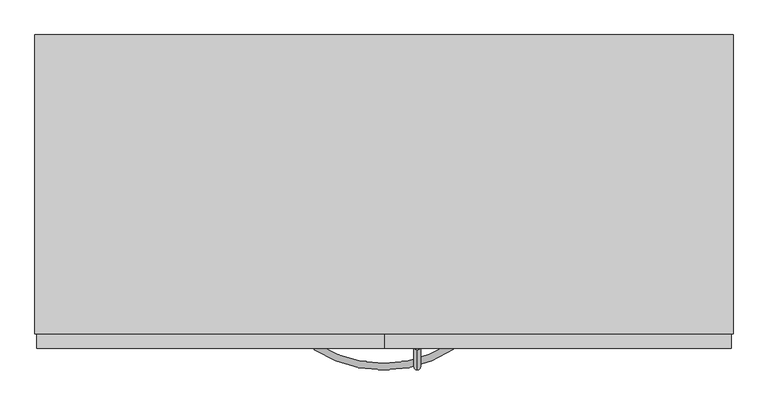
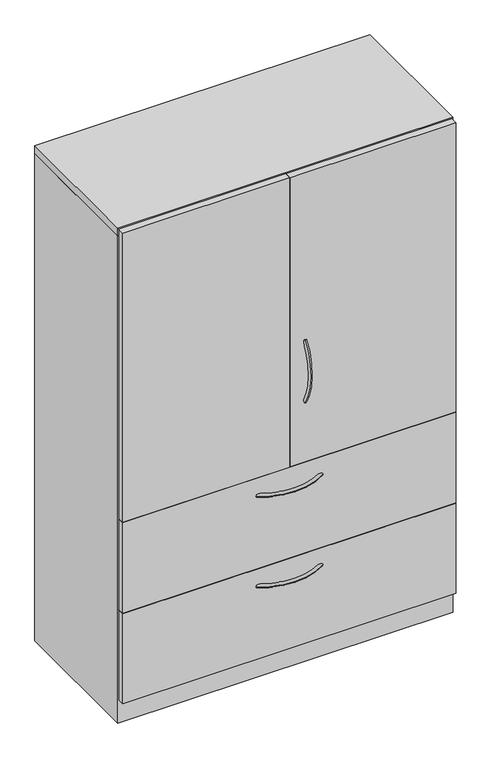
"""IFC4 building model written with IfcOpenShell, lengths in millimetres: furniture geometry, Steelcase - Universal Storage - Cabinet - Combination - Proud Steel : 65 1/2H - Hinged Doors/2 Drawers - 18 7/8D x 42W."""

from ifc_helpers import new_model, si_unit, point, frame, origin, place, context, project, spatial, polyline, circle_curve, ellipse_curve, trimmed, outline, extrude, faceted_brep, source, transform, mapped, element, save
from ifc_brep_helpers import plane_surface, revolved_surface, advanced_brep


def furniture_df54faf2(model_context):
    return source(origin(), model_context, "Body", "SolidModel", [
        extrude(outline(polyline([(1063.6225413, -479.552), (3.1725353, -479.552), (3.1725353, -457.3261219), (1063.6225413, -457.3261219), (1063.6225413, -479.552)])), frame((0.0, 0.0, 77.724), z_axis=(0.0, 0.0, 1.0), x_axis=(1.0, 0.0, 0.0)), (0.0, 0.0, 1.0), 303.276),
        extrude(outline(polyline([(1063.6225413, -479.552), (3.1725353, -479.552), (3.1725353, -457.3261219), (1063.6225413, -457.3261219), (1063.6225413, -479.552)])), frame((0.0, 0.0, 382.524), z_axis=(0.0, 0.0, 1.0), x_axis=(1.0, 0.0, 0.0)), (0.0, 0.0, 1.0), 303.276),
        extrude(outline(polyline([(533.4, -479.552), (3.1725353, -479.552), (3.1725353, -457.3261219), (533.4, -457.3261219), (533.4, -479.552)])), frame((0.0, 0.0, 687.7062596), z_axis=(0.0, 0.0, 1.0), x_axis=(1.0, 0.0, 0.0)), (0.0, 0.0, 1.0), 972.82),
        extrude(outline(polyline([(1063.6225413, -479.552), (534.9239992, -479.552), (534.9239992, -457.3261219), (1063.6225413, -457.3261219), (1063.6225413, -479.552)])), frame((0.0, 0.0, 687.7062596), z_axis=(0.0, 0.0, 1.0), x_axis=(1.0, 0.0, 0.0)), (0.0, 0.0, 1.0), 972.82),
        advanced_brep(
        [(584.1682496, -481.5705994, 1099.843666), (584.1682496, -473.0108019, 1094.3705073), (584.1682496, -481.1337636, 887.5367456), (584.1682496, -472.5965612, 893.0450825)],
        [
            (0, 1, circle_curve(frame((584.1682496, -477.2907007, 1097.1070866), z_axis=(0.0, 0.5386967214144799, 0.842499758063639), x_axis=(0.0, 0.842499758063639, -0.5386967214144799)), 5.08)),
            (1, 0, circle_curve(frame((584.1682496, -477.2907007, 1097.1070866), z_axis=(0.0, 0.5386967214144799, 0.842499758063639), x_axis=(0.0, 0.842499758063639, -0.5386967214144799)), 5.08)),
            (2, 3, circle_curve(frame((584.1682496, -476.8651624, 890.2909141), z_axis=(0.0, 0.5421591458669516, -0.8402758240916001), x_axis=(0.0, 0.8402758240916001, 0.5421591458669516)), 5.08)),
            (3, 2, circle_curve(frame((584.1682496, -476.8651624, 890.2909141), z_axis=(0.0, 0.5421591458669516, -0.8402758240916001), x_axis=(0.0, 0.8402758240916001, 0.5421591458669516)), 5.08)),
            (3, 1, circle_curve(frame((584.1682496, -316.0827352, 994.0302589), z_axis=(-1.0, 0.0, 0.0), x_axis=(0.0, -0.8424997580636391, 0.5386967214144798)), 186.2648211)),
            (0, 2, circle_curve(frame((584.1682496, -316.0827352, 994.0302589), z_axis=(1.0, 0.0, 0.0), x_axis=(0.0, -0.8424997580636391, 0.5386967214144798)), 196.4248211)),
        ],
        [
            plane_surface(frame((584.9619996, -476.6365286, 1096.6888072), z_axis=(0.0, 0.5386967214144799, 0.8424997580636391), x_axis=(1.0, 0.0, 0.0))),
            plane_surface(frame((584.9619996, -476.2127171, 890.711882), z_axis=(0.0, 0.5421591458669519, -0.8402758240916), x_axis=(1.0, 0.0, 0.0))),
            revolved_surface(trimmed(ellipse_curve(frame((584.1682496, -477.2907007, 1097.1070866), z_axis=(0.0, 0.5386967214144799, 0.842499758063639), x_axis=(0.0, 0.842499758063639, -0.5386967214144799)), 5.08, 5.08), [point((584.1682496, -481.5705994, 1099.843666))], [point((584.1682496, -473.0108019, 1094.3705073))], True, "CARTESIAN"), (584.9619996, -316.0827352, 994.0302589), (1.0, 0.0, 0.0)),
            revolved_surface(trimmed(ellipse_curve(frame((584.1682496, -477.2907007, 1097.1070866), z_axis=(0.0, 0.5386967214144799, 0.842499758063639), x_axis=(0.0, 0.842499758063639, -0.5386967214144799)), 5.08, 5.08), [point((584.1682496, -473.0108019, 1094.3705073))], [point((584.1682496, -481.5705994, 1099.843666))], True, "CARTESIAN"), (584.9619996, -316.0827352, 994.0302589), (1.0, 0.0, 0.0)),
        ],
        [
            (0, [[1, 2]]),
            (1, [[3, 4]]),
            (2, [[5, -1, 6, -4]]),
            (3, [[-6, -2, -5, -3]]),
        ],
    ),
        advanced_brep(
        [(426.8245932, -481.5705994, 323.56425), (432.2977519, -473.0108019, 323.56425), (639.1315136, -481.1337636, 323.56425), (633.6231767, -472.5965612, 323.56425)],
        [
            (0, 1, circle_curve(frame((429.5611726, -477.2907007, 323.56425), z_axis=(-0.8424997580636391, 0.5386967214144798, 0.0), x_axis=(0.5386967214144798, 0.8424997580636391, 0.0)), 5.08)),
            (1, 0, circle_curve(frame((429.5611726, -477.2907007, 323.56425), z_axis=(-0.8424997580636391, 0.5386967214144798, 0.0), x_axis=(0.5386967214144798, 0.8424997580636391, 0.0)), 5.08)),
            (2, 3, circle_curve(frame((636.3773452, -476.8651624, 323.56425), z_axis=(0.8402758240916, 0.5421591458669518, 0.0), x_axis=(-0.5421591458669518, 0.8402758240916, 0.0)), 5.08)),
            (3, 2, circle_curve(frame((636.3773452, -476.8651624, 323.56425), z_axis=(0.8402758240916, 0.5421591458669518, 0.0), x_axis=(-0.5421591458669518, 0.8402758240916, 0.0)), 5.08)),
            (3, 1, circle_curve(frame((532.6380004, -316.0827352, 323.56425), z_axis=(0.0, 0.0, -1.0), x_axis=(-0.5386967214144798, -0.8424997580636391, 0.0)), 186.2648211)),
            (0, 2, circle_curve(frame((532.6380004, -316.0827352, 323.56425), z_axis=(0.0, 0.0, 1.0), x_axis=(-0.5386967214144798, -0.8424997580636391, 0.0)), 196.4248211)),
        ],
        [
            plane_surface(frame((429.9794521, -476.6365286, 324.358), z_axis=(-0.8424997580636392, 0.5386967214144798, 0.0), x_axis=(0.0, 0.0, 1.0))),
            plane_surface(frame((635.9563772, -476.2127171, 324.358), z_axis=(0.8402758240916, 0.5421591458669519, 0.0), x_axis=(0.0, 0.0, 1.0))),
            revolved_surface(trimmed(ellipse_curve(frame((429.5611726, -477.2907007, 323.56425), z_axis=(-0.8424997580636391, 0.5386967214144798, 0.0), x_axis=(0.5386967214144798, 0.8424997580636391, 0.0)), 5.08, 5.08), [point((426.8245932, -481.5705994, 323.56425))], [point((432.2977519, -473.0108019, 323.56425))], True, "CARTESIAN"), (532.6380004, -316.0827352, 324.358), (0.0, 0.0, 1.0)),
            revolved_surface(trimmed(ellipse_curve(frame((429.5611726, -477.2907007, 323.56425), z_axis=(-0.8424997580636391, 0.5386967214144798, 0.0), x_axis=(0.5386967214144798, 0.8424997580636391, 0.0)), 5.08, 5.08), [point((432.2977519, -473.0108019, 323.56425))], [point((426.8245932, -481.5705994, 323.56425))], True, "CARTESIAN"), (532.6380004, -316.0827352, 324.358), (0.0, 0.0, 1.0)),
        ],
        [
            (0, [[1, 2]]),
            (1, [[3, 4]]),
            (2, [[5, -1, 6, -4]]),
            (3, [[-6, -2, -5, -3]]),
        ],
    ),
        advanced_brep(
        [(426.8245932, -481.5705994, 627.85625), (432.2977519, -473.0108019, 627.85625), (639.1315136, -481.1337636, 627.85625), (633.6231767, -472.5965612, 627.85625)],
        [
            (0, 1, circle_curve(frame((429.5611726, -477.2907007, 627.85625), z_axis=(-0.8424997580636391, 0.5386967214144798, 0.0), x_axis=(0.5386967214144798, 0.8424997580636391, 0.0)), 5.08)),
            (1, 0, circle_curve(frame((429.5611726, -477.2907007, 627.85625), z_axis=(-0.8424997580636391, 0.5386967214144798, 0.0), x_axis=(0.5386967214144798, 0.8424997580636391, 0.0)), 5.08)),
            (2, 3, circle_curve(frame((636.3773452, -476.8651624, 627.85625), z_axis=(0.8402758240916, 0.5421591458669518, 0.0), x_axis=(-0.5421591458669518, 0.8402758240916, 0.0)), 5.08)),
            (3, 2, circle_curve(frame((636.3773452, -476.8651624, 627.85625), z_axis=(0.8402758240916, 0.5421591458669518, 0.0), x_axis=(-0.5421591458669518, 0.8402758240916, 0.0)), 5.08)),
            (3, 1, circle_curve(frame((532.6380004, -316.0827352, 627.85625), z_axis=(0.0, 0.0, -1.0), x_axis=(-0.5386967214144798, -0.8424997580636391, 0.0)), 186.2648211)),
            (0, 2, circle_curve(frame((532.6380004, -316.0827352, 627.85625), z_axis=(0.0, 0.0, 1.0), x_axis=(-0.5386967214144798, -0.8424997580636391, 0.0)), 196.4248211)),
        ],
        [
            plane_surface(frame((429.9794521, -476.6365286, 628.65), z_axis=(-0.8424997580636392, 0.5386967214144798, 0.0), x_axis=(0.0, 0.0, 1.0))),
            plane_surface(frame((635.9563772, -476.2127171, 628.65), z_axis=(0.8402758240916, 0.5421591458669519, 0.0), x_axis=(0.0, 0.0, 1.0))),
            revolved_surface(trimmed(ellipse_curve(frame((429.5611726, -477.2907007, 627.85625), z_axis=(-0.8424997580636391, 0.5386967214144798, 0.0), x_axis=(0.5386967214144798, 0.8424997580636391, 0.0)), 5.08, 5.08), [point((426.8245932, -481.5705994, 627.85625))], [point((432.2977519, -473.0108019, 627.85625))], True, "CARTESIAN"), (532.6380004, -316.0827352, 628.65), (0.0, 0.0, 1.0)),
            revolved_surface(trimmed(ellipse_curve(frame((429.5611726, -477.2907007, 627.85625), z_axis=(-0.8424997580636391, 0.5386967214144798, 0.0), x_axis=(0.5386967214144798, 0.8424997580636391, 0.0)), 5.08, 5.08), [point((432.2977519, -473.0108019, 627.85625))], [point((426.8245932, -481.5705994, 627.85625))], True, "CARTESIAN"), (532.6380004, -316.0827352, 628.65), (0.0, 0.0, 1.0)),
        ],
        [
            (0, [[1, 2]]),
            (1, [[3, 4]]),
            (2, [[5, -1, 6, -4]]),
            (3, [[-6, -2, -5, -3]]),
        ],
    ),
        faceted_brep([(25.4000008, -457.3261219, 76.2), (1041.4000242, -457.3261219, 76.2), (1041.4000242, -25.4000008, 76.2), (25.4000008, -25.4000008, 76.2), (1066.8, 0.0, 0.0), (1066.8, -457.3261219, 0.0), (0.0, -457.3261219, 0.0), (0.0, 0.0, 0.0), (0.0, 0.0, 1636.776), (1066.8, 0.0, 1636.776), (0.0, -457.3261219, 1636.776), (1066.8, -457.3261219, 1636.776), (1041.4000242, -457.3261219, 1636.776), (25.4000008, -457.3261219, 1636.776), (1041.4000242, -25.4000008, 1636.776), (25.4000008, -25.4000008, 1636.776)], [[[0, 1, 2, 3]], [[4, 5, 6, 7]], [[4, 7, 8, 9]], [[8, 7, 6, 10]], [[10, 6, 5, 11, 12, 1, 0, 13]], [[11, 5, 4, 9]], [[14, 12, 11, 9, 8, 10, 13, 15]], [[12, 14, 2, 1]], [[15, 13, 0, 3]], [[14, 15, 3, 2]]]),
        extrude(outline(polyline([(1066.8, 0.0), (1066.8, -457.3261219), (0.0, -457.3261219), (0.0, 0.0), (1066.8, 0.0)])), frame((0.0, 0.0, 1638.2999516), z_axis=(0.0, 0.0, 1.0), x_axis=(1.0, 0.0, 0.0)), (0.0, 0.0, 1.0), 25.4000484),
    ])


if __name__ == "__main__":
    model = new_model("IFC4")
    model_context = context("Model", 3, world=origin())
    ifc_project = project(units=[si_unit("LENGTHUNIT", "METRE", prefix="MILLI")], contexts=[model_context])
    site = spatial("IfcSite", under=ifc_project)
    building = spatial("IfcBuilding", under=site)
    placement = place(None, origin())
    furniture_shape = furniture_df54faf2(model_context)
    element("IfcFurniture", 1, ObjectType="Steelcase - Universal Storage - Cabinet - Combination - Proud Steel : 65 1/2H - Hinged Doors/2 Drawers - 18 7/8D x 42W", at=placement, inside=building, context=model_context, shape_type="MappedRepresentation", body=[
        mapped(furniture_shape, transform((0.0, 0.0, 0.0), x_axis=(1.0, 0.0, 0.0), y_axis=(0.0, 1.0, 0.0), z_axis=(0.0, 0.0, 1.0))),
    ])
    save(model, "model.ifc")
